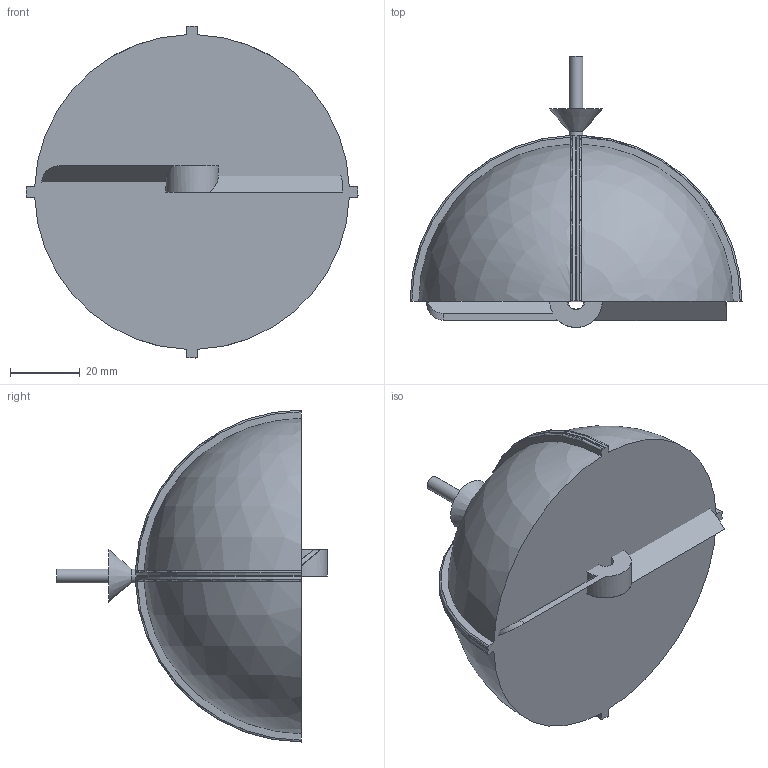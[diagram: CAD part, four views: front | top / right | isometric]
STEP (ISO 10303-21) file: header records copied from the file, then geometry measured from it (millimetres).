
FILE_DESCRIPTION(/* description */ ('Alibre Inc.'),/* implementation_level */ '2;1');
FILE_NAME(/* name */ 'export0',/* time_stamp */ '2010-04-20T17:55:01+02:00',/* author */ (''),/* organization */ (''),/* preprocessor_version */ 'ST-DEVELOPER v10',/* originating_system */ 'Alibre',/* authorisation */ '');
FILE_SCHEMA (('ALIBRE_SCHEMA','CONFIG_CONTROL_DESIGN'));
Length unit declared in the file: centimetre
Products named in the file (4): ID_1
Bounding box: 94.95 x 77.5 x 94.95 mm (x, y, z)
Volume: 196333.9 mm3; surface area: 24317.8 mm2
Topology: 3 solids, 3 shells, 55 faces, 141 edges, 93 vertices
Faces by surface type: plane 21, torus 12, cone 10, cylinder 8, sphere 4
Full cylindrical faces by diameter (mm): 4 x2, 4.5 x1, 5 x1
Entity records: 4498 total; most frequent: CARTESIAN_POINT 1004, DIRECTION 285, ORIENTED_EDGE 264, PERSISTANTTOPOLOGYATTRIBUTE 189, EDGE_CURVE 132, INTEGERVALUEPAIR 124, REFERENCEDEPENDENTUV 121, AXIS2_PLACEMENT_3D 112
